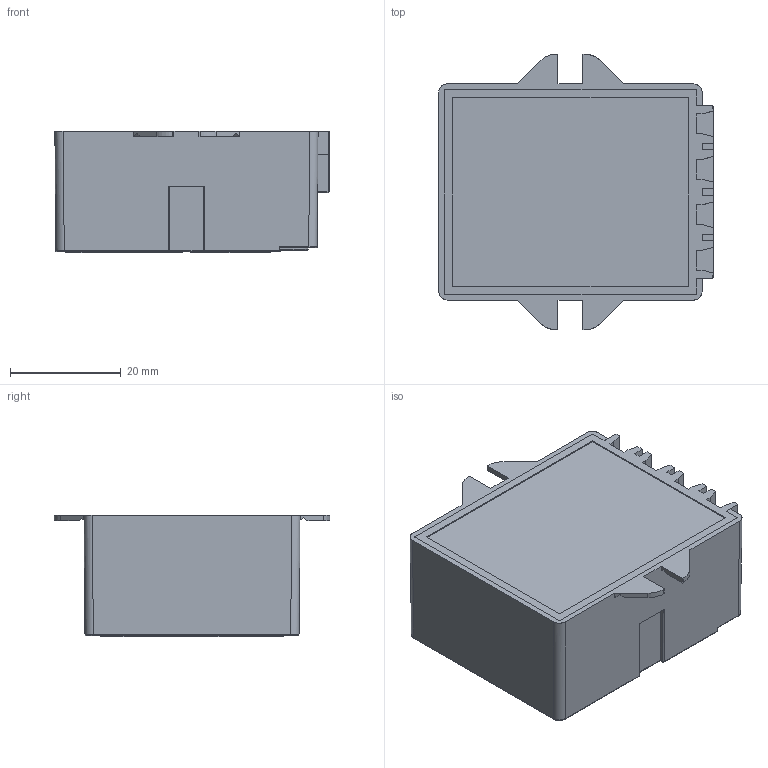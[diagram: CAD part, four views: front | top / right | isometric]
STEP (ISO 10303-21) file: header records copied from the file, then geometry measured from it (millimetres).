
FILE_DESCRIPTION(('STEP AP214'),'2;1');
FILE_NAME('13_71---complessivo.stp','2011-02-14T14:02:14',(''),(''),'2007.1.106','THINKDESIGN','');
FILE_SCHEMA(('AUTOMOTIVE_DESIGN'));
Length unit declared in the file: millimetre
Products named in the file (1): None
Bounding box: 49.5 x 49.78 x 22 mm (x, y, z)
Surface area: 10023.7 mm2 (no closed solid volume)
Topology: 0 solids, 0 shells, 500 faces, 2678 edges, 2646 vertices
Faces by surface type: plane 354, cylinder 85, bspline 61
Full cylindrical faces by diameter (mm): 2 x4, 3 x4, 4 x4, 4.488 x1, 5 x4
Entity records: 31509 total; most frequent: CARTESIAN_POINT 12275, DIRECTION 3208, COMPOSITE_CURVE_SEGMENT 2670, TRIMMED_CURVE 2138, VECTOR 2014, LINE 2014, AXIS2_PLACEMENT_3D 597, OUTER_BOUNDARY_CURVE 500
